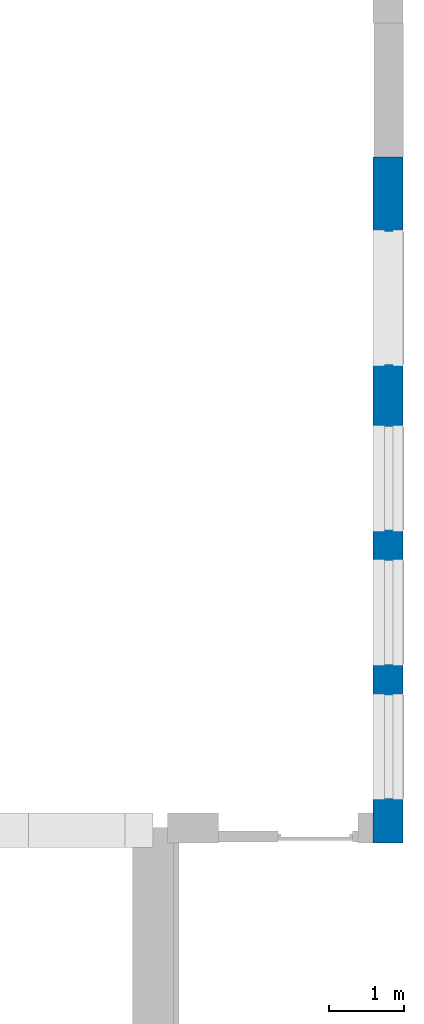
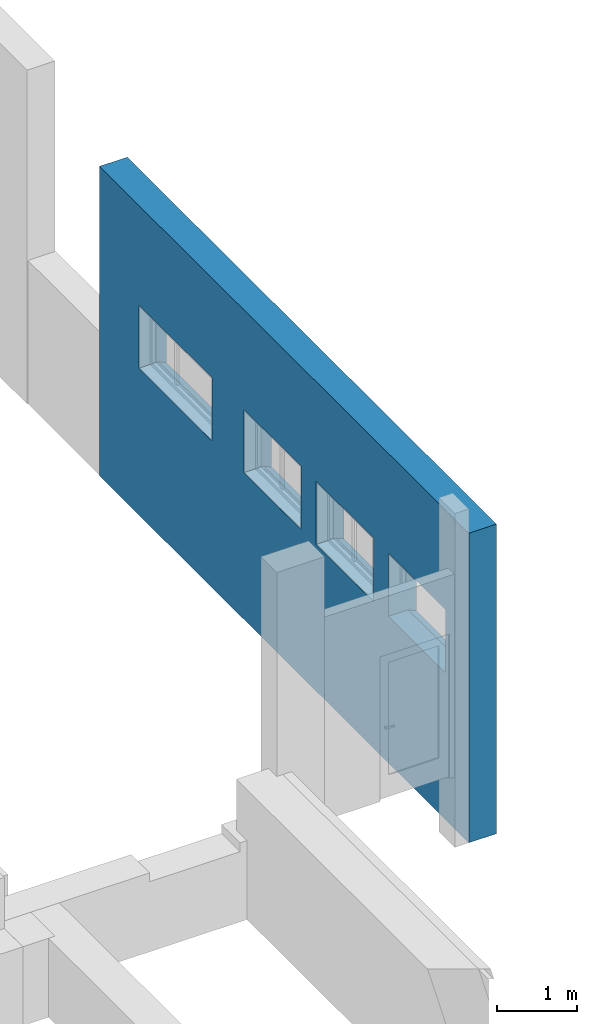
# One storey, part 3 of 6: 1 wall, 4 openings.
"""IFC2X3 building model written with IfcOpenShell, lengths in millimetres."""

from ifc_helpers import new_model, entity, si_unit, converted_unit, derived_unit, direction, frame, frame_2d, origin, place, context, subcontext, project, spatial, polyline, rectangle, extrude, clip, bounded_halfspace, faceted_brep, material, layer, layer_set, layer_usage, type_object, element, save


model = new_model("IFC2X3")

# Units and contexts
model_context = context("Model", 3, precision=0.01, world=origin(), true_north=direction((6.12303176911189e-17, 1.0)))
body_context = subcontext(model_context, "Body", "Model", "MODEL_VIEW")
ifc_project = project(units=[si_unit("LENGTHUNIT", "METRE", prefix="MILLI"), si_unit("AREAUNIT", "SQUARE_METRE"), si_unit("VOLUMEUNIT", "CUBIC_METRE"), converted_unit("PLANEANGLEUNIT", "DEGREE", entity("IfcRatioMeasure", 0.0174532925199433), si_unit("PLANEANGLEUNIT", "RADIAN"), dimensions=[0, 0, 0, 0, 0, 0, 0]), si_unit("MASSUNIT", "GRAM", prefix="KILO"), derived_unit("MASSDENSITYUNIT", [(si_unit("MASSUNIT", "GRAM", prefix="KILO"), 1), (si_unit("LENGTHUNIT", "METRE"), -3)]), si_unit("TIMEUNIT", "SECOND"), si_unit("FREQUENCYUNIT", "HERTZ"), si_unit("THERMODYNAMICTEMPERATUREUNIT", "DEGREE_CELSIUS"), derived_unit("THERMALTRANSMITTANCEUNIT", [(si_unit("MASSUNIT", "GRAM", prefix="KILO"), 1), (si_unit("THERMODYNAMICTEMPERATUREUNIT", "KELVIN"), -1), (si_unit("TIMEUNIT", "SECOND"), -3)]), derived_unit("VOLUMETRICFLOWRATEUNIT", [(si_unit("LENGTHUNIT", "METRE"), 3), (si_unit("TIMEUNIT", "SECOND"), -1)]), si_unit("ELECTRICCURRENTUNIT", "AMPERE"), si_unit("ELECTRICVOLTAGEUNIT", "VOLT"), si_unit("POWERUNIT", "WATT"), si_unit("FORCEUNIT", "NEWTON", prefix="KILO"), si_unit("ILLUMINANCEUNIT", "LUX"), si_unit("LUMINOUSFLUXUNIT", "LUMEN"), si_unit("LUMINOUSINTENSITYUNIT", "CANDELA"), derived_unit("USERDEFINED", [(si_unit("MASSUNIT", "GRAM", prefix="KILO"), -1), (si_unit("LENGTHUNIT", "METRE"), -2), (si_unit("TIMEUNIT", "SECOND"), 3), (si_unit("LUMINOUSFLUXUNIT", "LUMEN"), 1)]), derived_unit("LINEARVELOCITYUNIT", [(si_unit("LENGTHUNIT", "METRE"), 1), (si_unit("TIMEUNIT", "SECOND"), -1)]), si_unit("PRESSUREUNIT", "PASCAL"), derived_unit("USERDEFINED", [(si_unit("LENGTHUNIT", "METRE"), -2), (si_unit("MASSUNIT", "GRAM", prefix="KILO"), 1), (si_unit("TIMEUNIT", "SECOND"), -2)])], contexts=[model_context])

# Site, building, storey
site_placement = place(None, frame((-151.875543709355, 2715.0, 0.0)))
site = spatial("IfcSite", under=ifc_project, at=site_placement, Name="Surface", CompositionType="ELEMENT")
building_placement = place(site_placement, origin())
building = spatial("IfcBuilding", under=site, at=building_placement, CompositionType="ELEMENT")
storey_placement = place(building_placement, frame((0.0, 0.0, -1200.0)))
storey = spatial("IfcBuildingStorey", under=building, at=storey_placement, Name="Vundament", CompositionType="ELEMENT", Elevation=-1199.99999999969)

# Wall, openings
ifc_material_1 = material(Name="__Tuuletõkkeplaat")
ifc_layer_1 = layer(ifc_material_1, 9.0)
ifc_material_2 = material(Name="__Soojustus EPS")
ifc_layer_2 = layer(ifc_material_2, 200.0)
ifc_material_3 = material(Name="__Kergblokk")
ifc_layer_3 = layer(ifc_material_3, 190.0)
ifc_layer_set = layer_set([ifc_layer_1, ifc_layer_2, ifc_layer_3], Name="Basic Wall:VS-2.2_Juurdeehituse välissein")
ifc_layer_usage = layer_usage(ifc_layer_set, "AXIS2", "NEGATIVE", 199.5)
wall_type = type_object("IfcWallType", Name="Basic Wall:VS-2.2_Juurdeehituse välissein", PredefinedType="STANDARD", material=ifc_layer_set)
wall_placement = place(storey_placement, frame((38596.1162682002, 22010.0, 0.0), z_axis=(0.0, 0.0, 1.0), x_axis=(0.0, -1.0, 0.0)))
wall = element("IfcWallStandardCase", 1, at=wall_placement, inside=storey, type_object=wall_type, material=ifc_layer_usage, Name="Basic Wall:VS-2.2_Juurdeehituse välissein", ObjectType="Basic Wall:VS-2.2_Juurdeehituse välissein", context=body_context, shape_type="Clipping", body=[
    clip(extrude(rectangle(XDim=9198.99999999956, YDim=398.999999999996, at=frame_2d((4599.49999999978, 0.0), x_axis=(-1.0, 0.0))), origin(), (0.0, 0.0, 1.0), 4705.00000000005), bounded_halfspace(frame((0.0, -199.500000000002, 4705.0), z_axis=(0.0, 0.0, -1.0), x_axis=(1.0, 0.0, 0.0)), True, frame((0.0, -199.500000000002, 4705.0)), polyline([(0.0, 0.0), (382.810887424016, 0.0), (498.810887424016, 0.0), (6990.0, 0.0), (7200.0, 0.0), (8800.0, 0.0), (8800.0, 247.0), (0.0, 247.0), (0.0, 0.0)]))),
])
opening_1_placement = place(wall_placement, frame((8620.0, -699.500000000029, 1943.22079023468), z_axis=(0.0, 0.0, 1.0), x_axis=(0.0, 1.0, 0.0)))
element("IfcOpeningElement", 2, at=opening_1_placement, cuts=wall, Name="Basic Wall:VS-2.2_Juurdeehituse välissein", ObjectType="Opening", context=body_context, shape_type="Brep", body=[
    faceted_brep([(1399.0, 1420.0, 1246.77920976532), (0.0, 1420.0, 1246.77920976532), (0.0, 0.0, 1246.77920976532), (1399.0, 0.0, 1246.77920976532), (784.0, 0.0, 286.77920976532), (0.0, 0.0, 286.77920976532), (0.0, 1420.0, 286.77920976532), (784.0, 1420.0, 286.77920976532), (1399.0, 1420.0, 0.0), (1399.0, 0.0, 0.0)], [[[0, 1, 2, 3]], [[4, 5, 6, 7]], [[0, 8, 7, 6, 1]], [[2, 5, 4, 9, 3]], [[3, 9, 8, 0]], [[8, 9, 4, 7]], [[1, 6, 5, 2]]]),
])
opening_2_placement = place(wall_placement, frame((6818.9368555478, -699.500000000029, 1943.22079023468), z_axis=(0.0, 0.0, 1.0), x_axis=(0.0, 1.0, 0.0)))
element("IfcOpeningElement", 3, at=opening_2_placement, cuts=wall, Name="Basic Wall:VS-2.2_Juurdeehituse välissein", ObjectType="Opening", context=body_context, shape_type="Brep", body=[
    faceted_brep([(1399.0, 1420.0, 1246.77920976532), (0.0, 1420.0, 1246.77920976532), (0.0, 0.0, 1246.77920976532), (1399.0, 0.0, 1246.77920976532), (784.0, 0.0, 286.77920976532), (0.0, 0.0, 286.77920976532), (0.0, 1420.0, 286.77920976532), (784.0, 1420.0, 286.77920976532), (1399.0, 1420.0, 0.0), (1399.0, 0.0, 0.0)], [[[0, 1, 2, 3]], [[4, 5, 6, 7]], [[0, 8, 7, 6, 1]], [[2, 5, 4, 9, 3]], [[3, 9, 8, 0]], [[8, 9, 4, 7]], [[1, 6, 5, 2]]]),
])
opening_3_placement = place(wall_placement, frame((5020.0, -699.500000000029, 1943.22079023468), z_axis=(0.0, 0.0, 1.0), x_axis=(0.0, 1.0, 0.0)))
element("IfcOpeningElement", 4, at=opening_3_placement, cuts=wall, Name="Basic Wall:VS-2.2_Juurdeehituse välissein", ObjectType="Opening", context=body_context, shape_type="Brep", body=[
    faceted_brep([(1399.0, 1420.0, 1246.77920976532), (0.0, 1420.0, 1246.77920976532), (0.0, 0.0, 1246.77920976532), (1399.0, 0.0, 1246.77920976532), (784.0, 0.0, 286.77920976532), (0.0, 0.0, 286.77920976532), (0.0, 1420.0, 286.77920976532), (784.0, 1420.0, 286.77920976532), (1399.0, 1420.0, 0.0), (1399.0, 0.0, 0.0)], [[[0, 1, 2, 3]], [[4, 5, 6, 7]], [[0, 8, 7, 6, 1]], [[2, 5, 4, 9, 3]], [[3, 9, 8, 0]], [[8, 9, 4, 7]], [[1, 6, 5, 2]]]),
])
opening_4_placement = place(wall_placement, frame((2800.02034289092, -699.500000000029, 1943.22079023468), z_axis=(0.0, 0.0, 1.0), x_axis=(0.0, 1.0, 0.0)))
element("IfcOpeningElement", 5, at=opening_4_placement, cuts=wall, Name="Basic Wall:VS-2.2_Juurdeehituse välissein", ObjectType="Opening", context=body_context, shape_type="Brep", body=[
    faceted_brep([(1399.0, 1820.0, 1246.77920976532), (0.0, 1820.0, 1246.77920976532), (0.0, 0.0, 1246.77920976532), (1399.0, 0.0, 1246.77920976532), (784.0, 0.0, 286.77920976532), (0.0, 0.0, 286.77920976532), (0.0, 1820.0, 286.77920976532), (784.0, 1820.0, 286.77920976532), (1399.0, 1820.0, 0.0), (1399.0, 0.0, 0.0)], [[[0, 1, 2, 3]], [[4, 5, 6, 7]], [[0, 8, 7, 6, 1]], [[2, 5, 4, 9, 3]], [[3, 9, 8, 0]], [[8, 9, 4, 7]], [[1, 6, 5, 2]]]),
])

save(model, "model.ifc")
